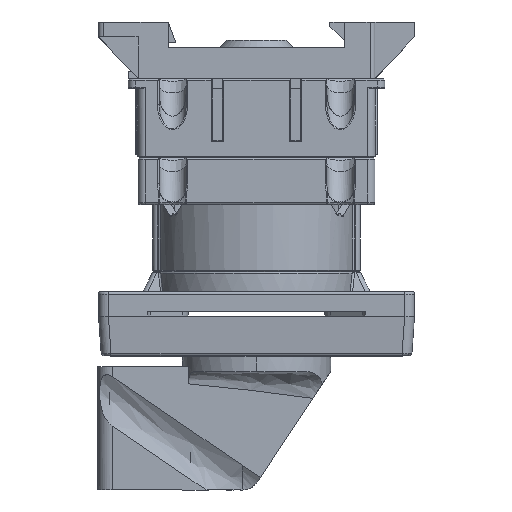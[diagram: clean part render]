
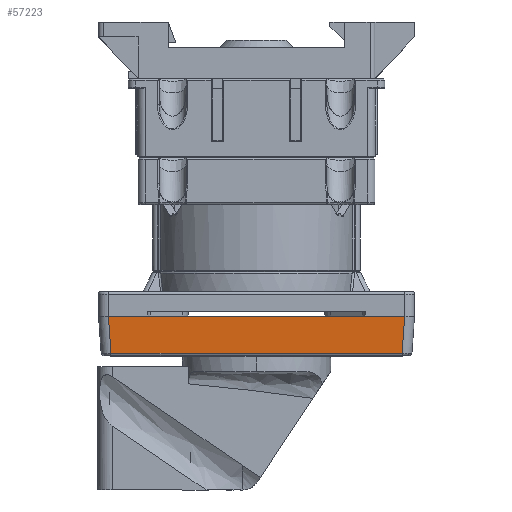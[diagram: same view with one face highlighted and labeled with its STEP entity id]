
A CAD part, left-side view. The second image highlights one B-rep face of the part: STEP entity #57223.
In plain terms, the highlighted planar face has unit normal (-0.998, 0, -0.07).
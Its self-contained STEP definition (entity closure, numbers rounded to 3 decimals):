
#5211 = CARTESIAN_POINT ( 'NONE',  ( -25.112, -34.556, -211.217 ) ) ;
#6290 = ORIENTED_EDGE ( 'NONE', *, *, #91470, .T. ) ;
#12125 = CARTESIAN_POINT ( 'NONE',  ( -25.639, -37.111, -203.682 ) ) ;
#12464 = PLANE ( 'NONE',  #62045 ) ;
#13876 = CARTESIAN_POINT ( 'NONE',  ( -25.493, -34.97, -205.76 ) ) ;
#15904 = VERTEX_POINT ( 'NONE', #55243 ) ;
#23943 = CARTESIAN_POINT ( 'NONE',  ( -25.639, -5.111, -203.682 ) ) ;
#24345 = VERTEX_POINT ( 'NONE', #62002 ) ;
#32736 = CARTESIAN_POINT ( 'NONE',  ( -25.089, 24.345, -211.544 ) ) ;
#41516 = EDGE_LOOP ( 'NONE', ( #134657, #78940, #6290, #117108 ) ) ;
#43063 = VECTOR ( 'NONE', #117019, 1000. ) ;
#45578 = DIRECTION ( 'NONE',  ( -0.07, -0.07, 0.995 ) ) ;
#50674 = VERTEX_POINT ( 'NONE', #62280 ) ;
#51842 = CARTESIAN_POINT ( 'NONE',  ( -25.639, 24.894, -203.682 ) ) ;
#54848 = FACE_OUTER_BOUND ( 'NONE', #41516, .T. ) ;
#55243 = CARTESIAN_POINT ( 'NONE',  ( -25.112, -34.589, -211.217 ) ) ;
#57223 = ADVANCED_FACE ( 'NONE', ( #54848 ), #12464, .F. ) ;
#62002 = CARTESIAN_POINT ( 'NONE',  ( -25.639, -35.115, -203.682 ) ) ;
#62045 = AXIS2_PLACEMENT_3D ( 'NONE', #23943, #118715, #97133 ) ;
#62280 = CARTESIAN_POINT ( 'NONE',  ( -25.112, 24.367, -211.217 ) ) ;
#65952 = VERTEX_POINT ( 'NONE', #51842 ) ;
#78940 = ORIENTED_EDGE ( 'NONE', *, *, #105500, .T. ) ;
#89451 = DIRECTION ( 'NONE',  ( 0., -1., 0. ) ) ;
#89854 = EDGE_CURVE ( 'NONE', #65952, #50674, #106189, .T. ) ;
#90243 = VECTOR ( 'NONE', #89451, 1000. ) ;
#91470 = EDGE_CURVE ( 'NONE', #15904, #24345, #132229, .T. ) ;
#92057 = LINE ( 'NONE', #12125, #43063 ) ;
#97133 = DIRECTION ( 'NONE',  ( 0.07, 0., -0.998 ) ) ;
#105500 = EDGE_CURVE ( 'NONE', #50674, #15904, #113220, .T. ) ;
#105894 = DIRECTION ( 'NONE',  ( 0.07, -0.07, -0.995 ) ) ;
#106189 = LINE ( 'NONE', #32736, #135689 ) ;
#110934 = VECTOR ( 'NONE', #45578, 1000. ) ;
#113220 = LINE ( 'NONE', #5211, #90243 ) ;
#117019 = DIRECTION ( 'NONE',  ( 0., 1., 0. ) ) ;
#117108 = ORIENTED_EDGE ( 'NONE', *, *, #132484, .T. ) ;
#118715 = DIRECTION ( 'NONE',  ( 0.998, 0., 0.07 ) ) ;
#132229 = LINE ( 'NONE', #13876, #110934 ) ;
#132484 = EDGE_CURVE ( 'NONE', #24345, #65952, #92057, .T. ) ;
#134657 = ORIENTED_EDGE ( 'NONE', *, *, #89854, .T. ) ;
#135689 = VECTOR ( 'NONE', #105894, 1000. ) ;
